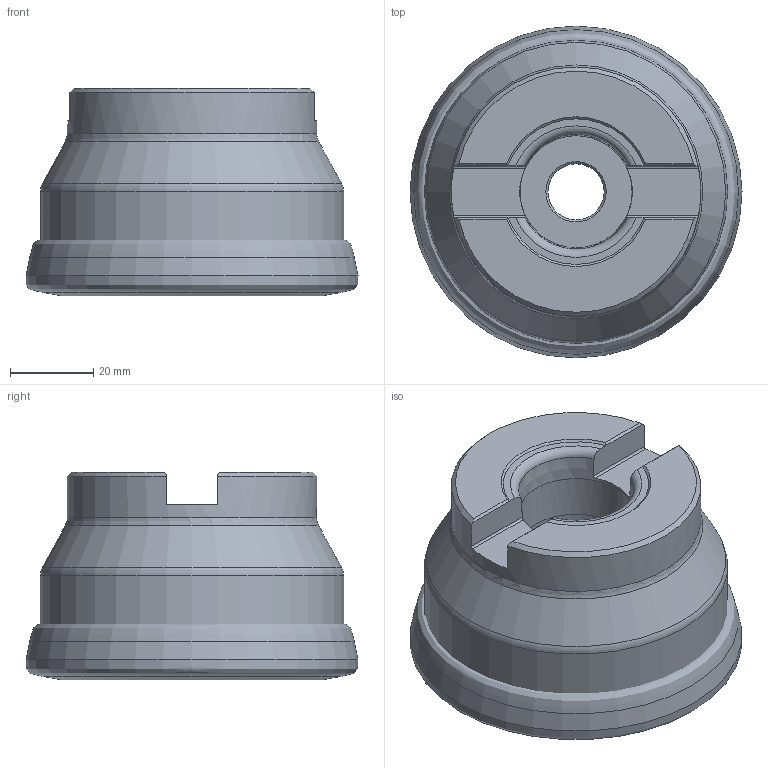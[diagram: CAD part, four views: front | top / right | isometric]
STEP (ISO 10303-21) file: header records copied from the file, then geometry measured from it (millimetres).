
FILE_DESCRIPTION(/* description */ (''),/* implementation_level */ '2;1');
FILE_NAME(/* name */ '637723483825582957.stp',/* time_stamp */ '2021-11-12T21:13:14+08:00',/* author */ (''),/* organization */ (''),/* preprocessor_version */ 'ST-DEVELOPER v16.7',/* originating_system */ 'SIEMENS PLM Software NX 12.0',/* authorisation */ '');
FILE_SCHEMA (('AUTOMOTIVE_DESIGN { 1 0 10303 214 3 1 1 1 }'));
Length unit declared in the file: millimetre
Products named in the file (2): 637723483782983494_SDMT120412-DM; 637723483768141413_XMR01-080-A27-SD12-06_S
Assembly tree (6 placements, depth 2):
  637723483768141413_XMR01-080-A27-SD12-06_S
    637723483782983494_SDMT120412-DM  x6
Bounding box: 79.84 x 79.81 x 49.9 mm (x, y, z)
Volume: 181860.2 mm3; surface area: 30371.7 mm2
Topology: 2 solids, 2 shells, 64 faces, 155 edges, 96 vertices
Faces by surface type: plane 19, cone 13, torus 13, cylinder 11, revolution 8
Full cylindrical faces by diameter (mm): 13.5 x1, 20 x1, 27 x1, 29 x1, 60 x1, 72.926 x1, 76.137 x1
Entity records: 2024 total; most frequent: CARTESIAN_POINT 638, DIRECTION 264, ORIENTED_EDGE 212, AXIS2_PLACEMENT_3D 116, EDGE_CURVE 106, EDGE_LOOP 102, VERTEX_POINT 82, FACE_BOUND 78
